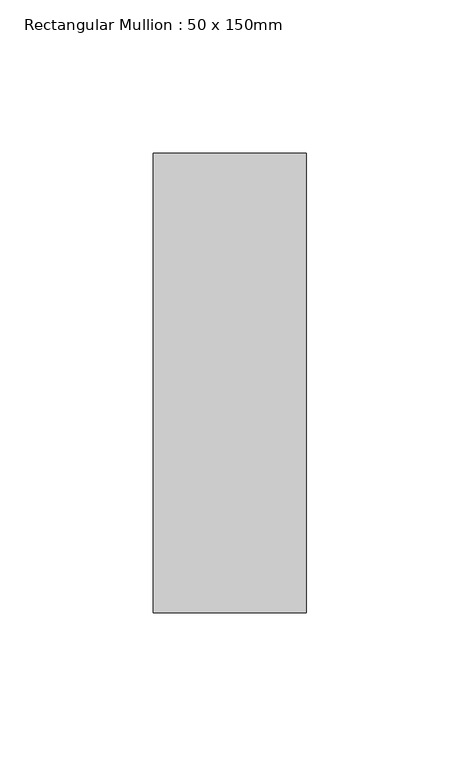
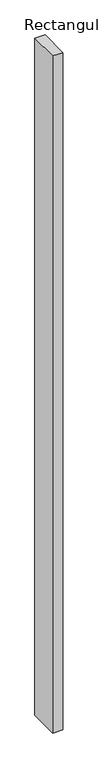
"""IFC4 building model written with IfcOpenShell, lengths in millimetres: member geometry, Rectangular Mullion : 50 x 150mm."""

from ifc_helpers import new_model, si_unit, frame, origin, place, context, project, spatial, polyline, outline, extrude, source, transform, mapped, element, save


def rectangular_mullion_50_x_150mm_77aa7d75(model_context):
    return source(origin(), model_context, "Body", "SweptSolid", [
        extrude(outline(polyline([(25.0, 75.0), (25.0, -75.0), (-25.0, -75.0), (-25.0, 75.0), (25.0, 75.0)])), frame((0.0, 0.0, -3500.0), z_axis=(0.0, 0.0, 1.0), x_axis=(1.0, 0.0, 0.0)), (0.0, 0.0, 1.0), 3500.0),
    ])


if __name__ == "__main__":
    model = new_model("IFC4")
    model_context = context("Model", 3, world=origin())
    ifc_project = project(units=[si_unit("LENGTHUNIT", "METRE", prefix="MILLI")], contexts=[model_context])
    site = spatial("IfcSite", under=ifc_project)
    building = spatial("IfcBuilding", under=site)
    placement = place(None, origin())
    rectangular_mullion_50_x_150mm_shape = rectangular_mullion_50_x_150mm_77aa7d75(model_context)
    element("IfcMember", 1, ObjectType="Rectangular Mullion : 50 x 150mm", at=placement, inside=building, context=model_context, shape_type="MappedRepresentation", body=[
        mapped(rectangular_mullion_50_x_150mm_shape, transform((0.0, 0.0, 0.0), x_axis=(1.0, 0.0, 0.0), y_axis=(0.0, 1.0, 0.0), z_axis=(0.0, 0.0, 1.0))),
    ])
    save(model, "model.ifc")
